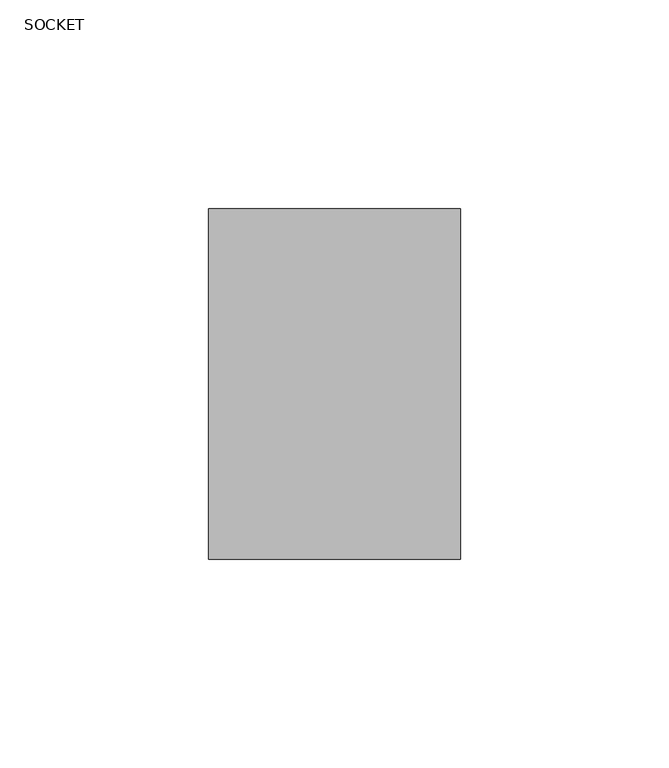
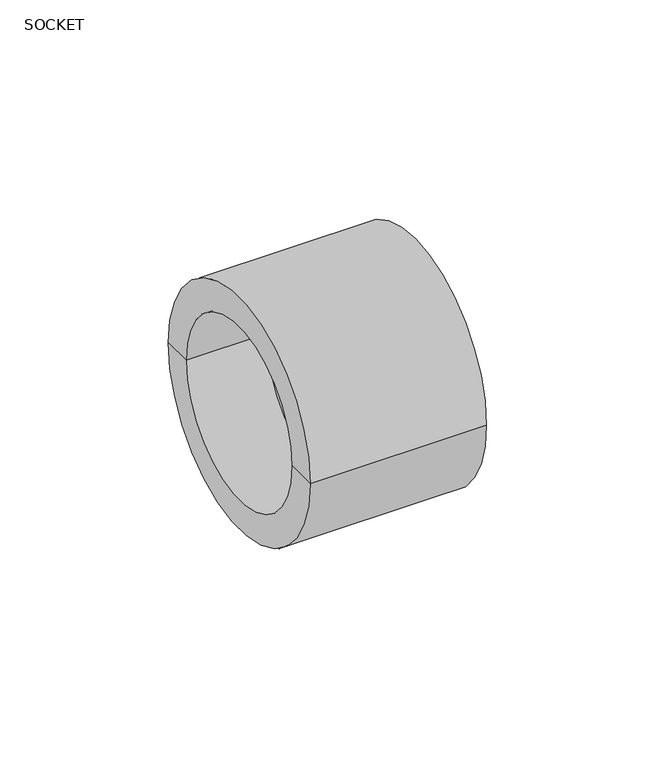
"""IFC4 building model written with IfcOpenShell, lengths in millimetres: pipe fitting geometry, Aquatherm - Coupling Socket : SOCKET."""

from ifc_helpers import new_model, si_unit, frame, origin, place, context, project, spatial, polyline, circle_curve, source, transform, mapped, element, save
from ifc_brep_helpers import plane_surface, cylinder_surface, revolved_surface, advanced_brep


def socket_98a89f84(model_context):
    return source(origin(), model_context, "Body", "AdvancedBrep", [
        advanced_brep(
        [(-30.226, -31.496, 0.0), (-30.226, 31.496, 0.0), (-30.226, 42.037, 0.0), (-30.226, -42.037, 0.0), (-2.794, -31.496, 0.0), (-2.794, 31.496, 0.0), (-2.794, -25.908, 0.0), (-2.794, 25.908, 0.0), (2.794, -25.908, 0.0), (2.794, 25.908, 0.0), (2.794, -31.496, 0.0), (2.794, 31.496, 0.0), (30.226, -31.496, 0.0), (30.226, 31.496, 0.0), (30.226, -42.037, 0.0), (30.226, 42.037, 0.0)],
        [
            (0, 1, circle_curve(frame((-30.226, 0.0, 0.0), z_axis=(1.0, 0.0, 0.0), x_axis=(0.0, 1.0, 0.0)), 31.496)),
            (1, 2),
            (2, 3, circle_curve(frame((-30.226, 0.0, 0.0), z_axis=(-1.0, 0.0, 0.0), x_axis=(0.0, 1.0, 0.0)), 42.037)),
            (3, 0),
            (1, 0, circle_curve(frame((-30.226, 0.0, 0.0), z_axis=(1.0, 0.0, 0.0), x_axis=(0.0, 1.0, 0.0)), 31.496)),
            (3, 2, circle_curve(frame((-30.226, 0.0, 0.0), z_axis=(-1.0, 0.0, 0.0), x_axis=(0.0, 1.0, 0.0)), 42.037)),
            (4, 5, circle_curve(frame((-2.794, 0.0, 0.0), z_axis=(1.0, 0.0, 0.0), x_axis=(0.0, 1.0, 0.0)), 31.496)),
            (5, 1),
            (0, 4),
            (5, 4, circle_curve(frame((-2.794, 0.0, 0.0), z_axis=(1.0, 0.0, 0.0), x_axis=(0.0, 1.0, 0.0)), 31.496)),
            (6, 7, circle_curve(frame((-2.794, 0.0, 0.0), z_axis=(1.0, 0.0, 0.0), x_axis=(0.0, 1.0, 0.0)), 25.908)),
            (7, 5),
            (4, 6),
            (7, 6, circle_curve(frame((-2.794, 0.0, 0.0), z_axis=(1.0, 0.0, 0.0), x_axis=(0.0, 1.0, 0.0)), 25.908)),
            (8, 9, circle_curve(frame((2.794, 0.0, 0.0), z_axis=(1.0, 0.0, 0.0), x_axis=(0.0, 1.0, 0.0)), 25.908)),
            (9, 7),
            (6, 8),
            (9, 8, circle_curve(frame((2.794, 0.0, 0.0), z_axis=(1.0, 0.0, 0.0), x_axis=(0.0, 1.0, 0.0)), 25.908)),
            (10, 11, circle_curve(frame((2.794, 0.0, 0.0), z_axis=(1.0, 0.0, 0.0), x_axis=(0.0, 1.0, 0.0)), 31.496)),
            (11, 9),
            (8, 10),
            (11, 10, circle_curve(frame((2.794, 0.0, 0.0), z_axis=(1.0, 0.0, 0.0), x_axis=(0.0, 1.0, 0.0)), 31.496)),
            (12, 13, circle_curve(frame((30.226, 0.0, 0.0), z_axis=(1.0, 0.0, 0.0), x_axis=(0.0, 1.0, 0.0)), 31.496)),
            (13, 11),
            (10, 12),
            (13, 12, circle_curve(frame((30.226, 0.0, 0.0), z_axis=(1.0, 0.0, 0.0), x_axis=(0.0, 1.0, 0.0)), 31.496)),
            (14, 15, circle_curve(frame((30.226, 0.0, 0.0), z_axis=(1.0, 0.0, 0.0), x_axis=(0.0, 1.0, 0.0)), 42.037)),
            (15, 13),
            (12, 14),
            (15, 14, circle_curve(frame((30.226, 0.0, 0.0), z_axis=(1.0, 0.0, 0.0), x_axis=(0.0, 1.0, 0.0)), 42.037)),
            (2, 15),
            (14, 3),
        ],
        [
            plane_surface(frame((-30.226, 0.0, 0.0), z_axis=(-1.0, 0.0, 0.0), x_axis=(0.0, 1.0, 0.0))),
            revolved_surface(polyline([(-30.226, 31.496, 0.0), (-2.793999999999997, 31.496, 0.0)]), (-46.5244022, 0.0, 0.0), (-1.0, 0.0, 0.0)),
            plane_surface(frame((-2.794, 0.0, 0.0), z_axis=(-1.0, 0.0, 0.0), x_axis=(0.0, 1.0, 0.0))),
            revolved_surface(polyline([(-2.793999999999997, 25.908, 0.0), (2.793999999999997, 25.908, 0.0)]), (-46.5244022, 0.0, 0.0), (-1.0, 0.0, 0.0)),
            plane_surface(frame((2.794, 0.0, 0.0), z_axis=(1.0, 0.0, 0.0), x_axis=(0.0, 1.0, 0.0))),
            revolved_surface(polyline([(2.793999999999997, 31.496, 0.0), (30.226, 31.496, 0.0)]), (-46.5244022, 0.0, 0.0), (-1.0, 0.0, 0.0)),
            plane_surface(frame((30.226, 0.0, 0.0), z_axis=(1.0, 0.0, 0.0), x_axis=(0.0, 1.0, 0.0))),
            cylinder_surface(frame((-46.5244022, 0.0, 0.0), z_axis=(-1.0, 0.0, 0.0), x_axis=(0.0, 1.0, 0.0)), 42.037),
        ],
        [
            (0, [[1, 2, 3, 4]]),
            (0, [[5, -4, 6, -2]]),
            (1, [[7, 8, -1, 9]]),
            (1, [[10, -9, -5, -8]]),
            (2, [[11, 12, -7, 13]]),
            (2, [[14, -13, -10, -12]]),
            (3, [[15, 16, -11, 17]]),
            (3, [[18, -17, -14, -16]]),
            (4, [[19, 20, -15, 21]]),
            (4, [[22, -21, -18, -20]]),
            (5, [[23, 24, -19, 25]]),
            (5, [[26, -25, -22, -24]]),
            (6, [[27, 28, -23, 29]]),
            (6, [[30, -29, -26, -28]]),
            (7, [[-3, 31, -27, 32]]),
            (7, [[-6, -32, -30, -31]]),
        ],
    ),
    ])


if __name__ == "__main__":
    model = new_model("IFC4")
    model_context = context("Model", 3, world=origin())
    ifc_project = project(units=[si_unit("LENGTHUNIT", "METRE", prefix="MILLI")], contexts=[model_context])
    site = spatial("IfcSite", under=ifc_project)
    building = spatial("IfcBuilding", under=site)
    placement = place(None, origin())
    ifc_socket_shape = socket_98a89f84(model_context)
    element("IfcPipeFitting", 1, ObjectType="Aquatherm - Coupling Socket : SOCKET", at=placement, inside=building, context=model_context, shape_type="MappedRepresentation", body=[
        mapped(ifc_socket_shape, transform((0.0, 0.0, 0.0), x_axis=(1.0, 0.0, 0.0), y_axis=(0.0, 1.0, 0.0), z_axis=(0.0, 0.0, 1.0))),
    ])
    save(model, "model.ifc")
